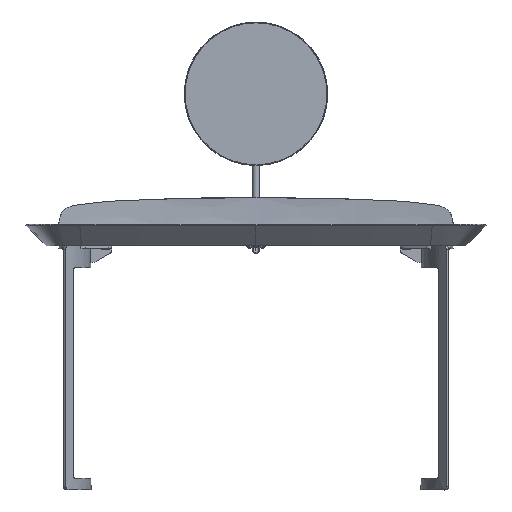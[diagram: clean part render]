
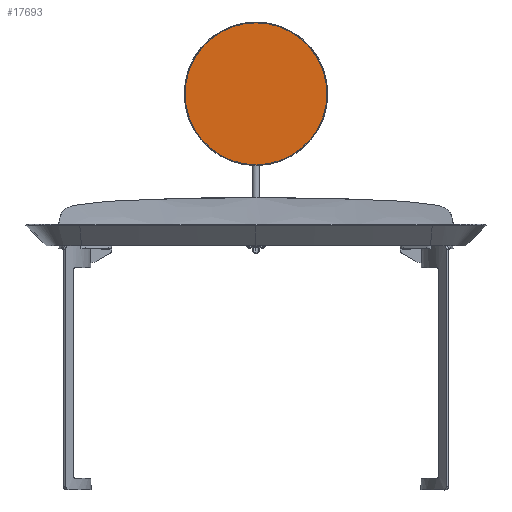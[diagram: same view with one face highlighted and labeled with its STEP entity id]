
A CAD part, top view. The second image highlights one B-rep face of the part: STEP entity #17693.
In plain terms, the highlighted planar face has unit normal (0, 0, 1) as drawn and (0, -1, 0) by its records, which use the part's own axes.
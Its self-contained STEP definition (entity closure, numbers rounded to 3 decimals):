
#242 = DIRECTION ( 'NONE',  ( 0., 0., 1. ) ) ;
#1900 = DIRECTION ( 'NONE',  ( 0., 0., 1. ) ) ;
#2032 = DIRECTION ( 'NONE',  ( 0., 0., 1. ) ) ;
#3677 = DIRECTION ( 'NONE',  ( 0., 1., 0. ) ) ;
#3792 = FACE_OUTER_BOUND ( 'NONE', #8037, .T. ) ;
#5668 = CARTESIAN_POINT ( 'NONE',  ( 0., 0., 0. ) ) ;
#7559 = EDGE_CURVE ( 'NONE', #10473, #8196, #20447, .T. ) ;
#8037 = EDGE_LOOP ( 'NONE', ( #17311, #13883 ) ) ;
#8196 = VERTEX_POINT ( 'NONE', #16633 ) ;
#8729 = CARTESIAN_POINT ( 'NONE',  ( 0., 0., 0. ) ) ;
#10473 = VERTEX_POINT ( 'NONE', #17677 ) ;
#10858 = AXIS2_PLACEMENT_3D ( 'NONE', #5668, #3677, #2032 ) ;
#11034 = DIRECTION ( 'NONE',  ( 0., -1., 0. ) ) ;
#12550 = CARTESIAN_POINT ( 'NONE',  ( 0., 0., 0. ) ) ;
#13883 = ORIENTED_EDGE ( 'NONE', *, *, #7559, .T. ) ;
#14626 = AXIS2_PLACEMENT_3D ( 'NONE', #12550, #11034, #242 ) ;
#14715 = PLANE ( 'NONE',  #10858 ) ;
#16633 = CARTESIAN_POINT ( 'NONE',  ( 0., 0., 200.5 ) ) ;
#16844 = CIRCLE ( 'NONE', #14626, 200.5 ) ;
#17311 = ORIENTED_EDGE ( 'NONE', *, *, #18239, .T. ) ;
#17677 = CARTESIAN_POINT ( 'NONE',  ( 0., 0., -200.5 ) ) ;
#17693 = ADVANCED_FACE ( 'NONE', ( #3792 ), #14715, .F. ) ;
#18239 = EDGE_CURVE ( 'NONE', #8196, #10473, #16844, .T. ) ;
#19321 = AXIS2_PLACEMENT_3D ( 'NONE', #8729, #21512, #1900 ) ;
#20447 = CIRCLE ( 'NONE', #19321, 200.5 ) ;
#21512 = DIRECTION ( 'NONE',  ( 0., -1., 0. ) ) ;
